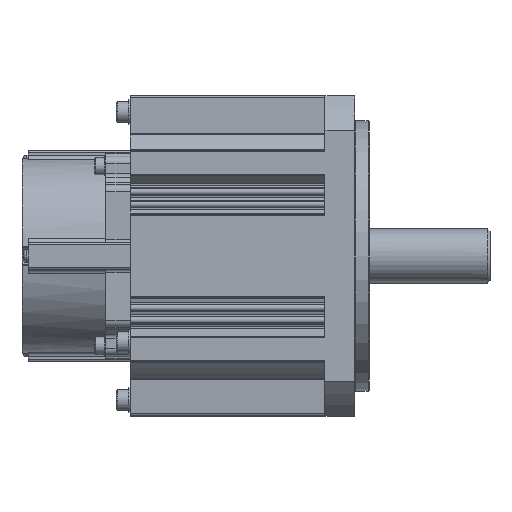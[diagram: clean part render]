
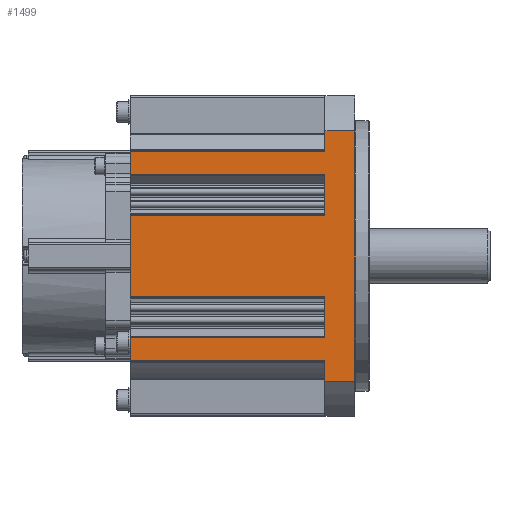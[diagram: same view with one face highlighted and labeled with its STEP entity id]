
A CAD part, front view. The second image highlights one B-rep face of the part: STEP entity #1499.
In plain terms, the highlighted planar face has unit normal (0, -1, 0).
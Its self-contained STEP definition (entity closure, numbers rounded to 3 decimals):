
#1499 = ADVANCED_FACE( '', ( #3196 ), #3197, .T. );
#3196 = FACE_OUTER_BOUND( '', #4984, .T. );
#3197 = PLANE( '', #4985 );
#4984 = EDGE_LOOP( '', ( #9421, #9422, #9423, #9424, #9425, #9426, #9427, #9428, #9429, #9430, #9431, #9432, #9433, #9434, #9435, #9436, #9437, #9438, #9439, #9440 ) );
#4985 = AXIS2_PLACEMENT_3D( '', #9441, #9442, #9443 );
#9421 = ORIENTED_EDGE( '', *, *, #10218, .F. );
#9422 = ORIENTED_EDGE( '', *, *, #11075, .T. );
#9423 = ORIENTED_EDGE( '', *, *, #11471, .F. );
#9424 = ORIENTED_EDGE( '', *, *, #10923, .F. );
#9425 = ORIENTED_EDGE( '', *, *, #11901, .F. );
#9426 = ORIENTED_EDGE( '', *, *, #12003, .T. );
#9427 = ORIENTED_EDGE( '', *, *, #11337, .T. );
#9428 = ORIENTED_EDGE( '', *, *, #10570, .F. );
#9429 = ORIENTED_EDGE( '', *, *, #10977, .F. );
#9430 = ORIENTED_EDGE( '', *, *, #12004, .F. );
#9431 = ORIENTED_EDGE( '', *, *, #10386, .F. );
#9432 = ORIENTED_EDGE( '', *, *, #10284, .T. );
#9433 = ORIENTED_EDGE( '', *, *, #11326, .T. );
#9434 = ORIENTED_EDGE( '', *, *, #11586, .F. );
#9435 = ORIENTED_EDGE( '', *, *, #11930, .F. );
#9436 = ORIENTED_EDGE( '', *, *, #10549, .F. );
#9437 = ORIENTED_EDGE( '', *, *, #11626, .F. );
#9438 = ORIENTED_EDGE( '', *, *, #10998, .T. );
#9439 = ORIENTED_EDGE( '', *, *, #11313, .T. );
#9440 = ORIENTED_EDGE( '', *, *, #11936, .F. );
#9441 = CARTESIAN_POINT( '', ( -91., -65., 50.806 ) );
#9442 = DIRECTION( '', ( 0., -1., 0. ) );
#9443 = DIRECTION( '', ( 0., 0., -1. ) );
#10218 = EDGE_CURVE( '', #12160, #12161, #12162, .T. );
#10284 = EDGE_CURVE( '', #12279, #12277, #12280, .T. );
#10386 = EDGE_CURVE( '', #12279, #12468, #12469, .T. );
#10549 = EDGE_CURVE( '', #12756, #12757, #12758, .T. );
#10570 = EDGE_CURVE( '', #12787, #12785, #12789, .T. );
#10923 = EDGE_CURVE( '', #13366, #13369, #13370, .T. );
#10977 = EDGE_CURVE( '', #13451, #12787, #13452, .T. );
#10998 = EDGE_CURVE( '', #13486, #13484, #13487, .T. );
#11075 = EDGE_CURVE( '', #12160, #13605, #13607, .T. );
#11313 = EDGE_CURVE( '', #13484, #13970, #13972, .T. );
#11326 = EDGE_CURVE( '', #12277, #13990, #13992, .T. );
#11337 = EDGE_CURVE( '', #14010, #12785, #14011, .T. );
#11471 = EDGE_CURVE( '', #13369, #13605, #14196, .T. );
#11586 = EDGE_CURVE( '', #14347, #13990, #14349, .T. );
#11626 = EDGE_CURVE( '', #13486, #12756, #14396, .T. );
#11901 = EDGE_CURVE( '', #14741, #13366, #14743, .T. );
#11930 = EDGE_CURVE( '', #12757, #14347, #14773, .T. );
#11936 = EDGE_CURVE( '', #12161, #13970, #14781, .T. );
#12003 = EDGE_CURVE( '', #14741, #14010, #14850, .T. );
#12004 = EDGE_CURVE( '', #12468, #13451, #14851, .T. );
#12160 = VERTEX_POINT( '', #15020 );
#12161 = VERTEX_POINT( '', #15021 );
#12162 = LINE( '', #15022, #15023 );
#12277 = VERTEX_POINT( '', #15164 );
#12279 = VERTEX_POINT( '', #15166 );
#12280 = LINE( '', #15167, #15168 );
#12468 = VERTEX_POINT( '', #15472 );
#12469 = LINE( '', #15473, #15474 );
#12756 = VERTEX_POINT( '', #15876 );
#12757 = VERTEX_POINT( '', #15877 );
#12758 = LINE( '', #15878, #15879 );
#12785 = VERTEX_POINT( '', #15910 );
#12787 = VERTEX_POINT( '', #15912 );
#12789 = LINE( '', #15914, #15915 );
#13366 = VERTEX_POINT( '', #16843 );
#13369 = VERTEX_POINT( '', #16846 );
#13370 = LINE( '', #16847, #16848 );
#13451 = VERTEX_POINT( '', #16958 );
#13452 = LINE( '', #16959, #16960 );
#13484 = VERTEX_POINT( '', #17003 );
#13486 = VERTEX_POINT( '', #17005 );
#13487 = LINE( '', #17006, #17007 );
#13605 = VERTEX_POINT( '', #17174 );
#13607 = LINE( '', #17176, #17177 );
#13970 = VERTEX_POINT( '', #17637 );
#13972 = LINE( '', #17639, #17640 );
#13990 = VERTEX_POINT( '', #17661 );
#13992 = LINE( '', #17663, #17664 );
#14010 = VERTEX_POINT( '', #17686 );
#14011 = LINE( '', #17687, #17688 );
#14196 = LINE( '', #17924, #17925 );
#14347 = VERTEX_POINT( '', #18120 );
#14349 = LINE( '', #18122, #18123 );
#14396 = LINE( '', #18188, #18189 );
#14741 = VERTEX_POINT( '', #18628 );
#14743 = LINE( '', #18630, #18631 );
#14773 = LINE( '', #18671, #18672 );
#14781 = LINE( '', #18681, #18682 );
#14850 = LINE( '', #18772, #18773 );
#14851 = LINE( '', #18774, #18775 );
#15020 = CARTESIAN_POINT( '', ( -12., -65., -50.806 ) );
#15021 = CARTESIAN_POINT( '', ( -12., -65., -42.5 ) );
#15022 = CARTESIAN_POINT( '', ( -12., -65., 50.806 ) );
#15023 = VECTOR( '', #18955, 1000. );
#15164 = CARTESIAN_POINT( '', ( -91., -65., 16.5 ) );
#15166 = CARTESIAN_POINT( '', ( -12., -65., 16.5 ) );
#15167 = CARTESIAN_POINT( '', ( -12., -65., 16.5 ) );
#15168 = VECTOR( '', #19066, 1000. );
#15472 = CARTESIAN_POINT( '', ( -12., -65., 21. ) );
#15473 = CARTESIAN_POINT( '', ( -12., -65., 50.806 ) );
#15474 = VECTOR( '', #19209, 1000. );
#15876 = CARTESIAN_POINT( '', ( -12., -65., -26. ) );
#15877 = CARTESIAN_POINT( '', ( -12., -65., -21. ) );
#15878 = CARTESIAN_POINT( '', ( -12., -65., 50.806 ) );
#15879 = VECTOR( '', #19420, 1000. );
#15910 = CARTESIAN_POINT( '', ( -91., -65., 33.089 ) );
#15912 = CARTESIAN_POINT( '', ( -12., -65., 33.089 ) );
#15914 = CARTESIAN_POINT( '', ( -12., -65., 33.089 ) );
#15915 = VECTOR( '', #19461, 1000. );
#16843 = CARTESIAN_POINT( '', ( -12., -65., 50.806 ) );
#16846 = CARTESIAN_POINT( '', ( 0., -65., 50.806 ) );
#16847 = CARTESIAN_POINT( '', ( -91., -65., 50.806 ) );
#16848 = VECTOR( '', #19882, 1000. );
#16958 = CARTESIAN_POINT( '', ( -12., -65., 26. ) );
#16959 = CARTESIAN_POINT( '', ( -12., -65., 50.806 ) );
#16960 = VECTOR( '', #19945, 1000. );
#17003 = CARTESIAN_POINT( '', ( -91., -65., -33.089 ) );
#17005 = CARTESIAN_POINT( '', ( -12., -65., -33.089 ) );
#17006 = CARTESIAN_POINT( '', ( -12., -65., -33.089 ) );
#17007 = VECTOR( '', #19972, 1000. );
#17174 = CARTESIAN_POINT( '', ( 0., -65., -50.806 ) );
#17176 = CARTESIAN_POINT( '', ( -91., -65., -50.806 ) );
#17177 = VECTOR( '', #20052, 1000. );
#17637 = CARTESIAN_POINT( '', ( -91., -65., -42.5 ) );
#17639 = CARTESIAN_POINT( '', ( -91., -65., 50.806 ) );
#17640 = VECTOR( '', #20461, 1000. );
#17661 = CARTESIAN_POINT( '', ( -91., -65., -16.5 ) );
#17663 = CARTESIAN_POINT( '', ( -91., -65., 50.806 ) );
#17664 = VECTOR( '', #20492, 1000. );
#17686 = CARTESIAN_POINT( '', ( -91., -65., 42.5 ) );
#17687 = CARTESIAN_POINT( '', ( -91., -65., 50.806 ) );
#17688 = VECTOR( '', #20515, 1000. );
#17924 = CARTESIAN_POINT( '', ( 0., -65., 50.806 ) );
#17925 = VECTOR( '', #20678, 1000. );
#18120 = CARTESIAN_POINT( '', ( -12., -65., -16.5 ) );
#18122 = CARTESIAN_POINT( '', ( -12., -65., -16.5 ) );
#18123 = VECTOR( '', #20804, 1000. );
#18188 = CARTESIAN_POINT( '', ( -12., -65., 50.806 ) );
#18189 = VECTOR( '', #20838, 1000. );
#18628 = CARTESIAN_POINT( '', ( -12., -65., 42.5 ) );
#18630 = CARTESIAN_POINT( '', ( -12., -65., 50.806 ) );
#18631 = VECTOR( '', #21152, 1000. );
#18671 = CARTESIAN_POINT( '', ( -12., -65., 50.806 ) );
#18672 = VECTOR( '', #21169, 1000. );
#18681 = CARTESIAN_POINT( '', ( -12., -65., -42.5 ) );
#18682 = VECTOR( '', #21180, 1000. );
#18772 = CARTESIAN_POINT( '', ( -12., -65., 42.5 ) );
#18773 = VECTOR( '', #21232, 1000. );
#18774 = CARTESIAN_POINT( '', ( -12., -65., 50.806 ) );
#18775 = VECTOR( '', #21233, 1000. );
#18955 = DIRECTION( '', ( 0., 0., 1. ) );
#19066 = DIRECTION( '', ( -1., 0., 0. ) );
#19209 = DIRECTION( '', ( 0., 0., 1. ) );
#19420 = DIRECTION( '', ( 0., 0., 1. ) );
#19461 = DIRECTION( '', ( -1., 0., 0. ) );
#19882 = DIRECTION( '', ( 1., 0., 0. ) );
#19945 = DIRECTION( '', ( 0., 0., 1. ) );
#19972 = DIRECTION( '', ( -1., 0., 0. ) );
#20052 = DIRECTION( '', ( 1., 0., 0. ) );
#20461 = DIRECTION( '', ( 0., 0., -1. ) );
#20492 = DIRECTION( '', ( 0., 0., -1. ) );
#20515 = DIRECTION( '', ( 0., 0., -1. ) );
#20678 = DIRECTION( '', ( 0., 0., -1. ) );
#20804 = DIRECTION( '', ( -1., 0., 0. ) );
#20838 = DIRECTION( '', ( 0., 0., 1. ) );
#21152 = DIRECTION( '', ( 0., 0., 1. ) );
#21169 = DIRECTION( '', ( 0., 0., 1. ) );
#21180 = DIRECTION( '', ( -1., 0., 0. ) );
#21232 = DIRECTION( '', ( -1., 0., 0. ) );
#21233 = DIRECTION( '', ( 0., 0., 1. ) );
